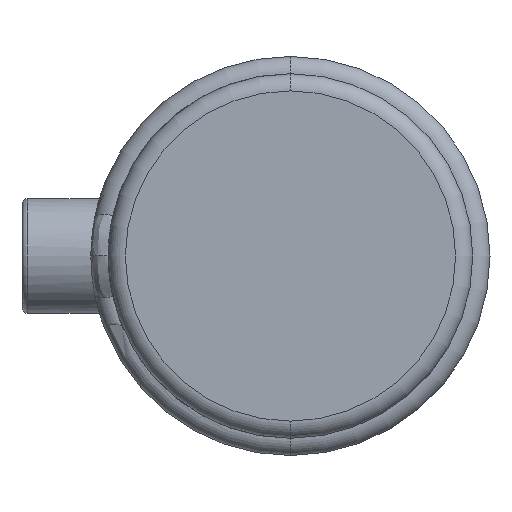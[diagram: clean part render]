
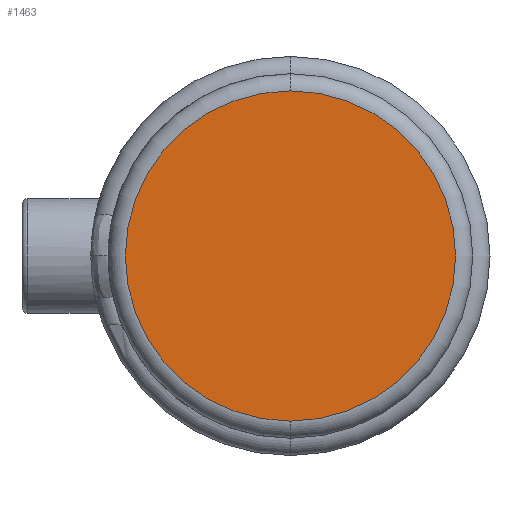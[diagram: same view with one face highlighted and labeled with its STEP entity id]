
A CAD part, left-side view. The second image highlights one B-rep face of the part: STEP entity #1463.
In plain terms, the highlighted planar face has unit normal (-1, 0, 0).
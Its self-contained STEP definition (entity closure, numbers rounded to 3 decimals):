
#186 = AXIS2_PLACEMENT_3D ( 'NONE', #4484, #2246, #4855 ) ;
#276 = AXIS2_PLACEMENT_3D ( 'NONE', #2007, #4639, #2394 ) ;
#498 = PLANE ( 'NONE',  #276 ) ;
#660 = ORIENTED_EDGE ( 'NONE', *, *, #1882, .T. ) ;
#1158 = ORIENTED_EDGE ( 'NONE', *, *, #3808, .T. ) ;
#1203 = VERTEX_POINT ( 'NONE', #2686 ) ;
#1375 = FACE_OUTER_BOUND ( 'NONE', #2290, .T. ) ;
#1404 = CARTESIAN_POINT ( 'NONE',  ( 0., 0., 28.75 ) ) ;
#1463 = ADVANCED_FACE ( 'NONE', ( #1375 ), #498, .T. ) ;
#1882 = EDGE_CURVE ( 'NONE', #1203, #2643, #4319, .T. ) ;
#2007 = CARTESIAN_POINT ( 'NONE',  ( 0., 0., 0. ) ) ;
#2054 = DIRECTION ( 'NONE',  ( -1., 0., 0. ) ) ;
#2246 = DIRECTION ( 'NONE',  ( -1., 0., 0. ) ) ;
#2290 = EDGE_LOOP ( 'NONE', ( #1158, #660 ) ) ;
#2394 = DIRECTION ( 'NONE',  ( 0., 0., 1. ) ) ;
#2643 = VERTEX_POINT ( 'NONE', #1404 ) ;
#2686 = CARTESIAN_POINT ( 'NONE',  ( 0., 0., -28.75 ) ) ;
#3103 = AXIS2_PLACEMENT_3D ( 'NONE', #4304, #2054, #4682 ) ;
#3808 = EDGE_CURVE ( 'NONE', #2643, #1203, #3900, .T. ) ;
#3900 = CIRCLE ( 'NONE', #3103, 28.75 ) ;
#4304 = CARTESIAN_POINT ( 'NONE',  ( 0., 0., 0. ) ) ;
#4319 = CIRCLE ( 'NONE', #186, 28.75 ) ;
#4484 = CARTESIAN_POINT ( 'NONE',  ( 0., 0., 0. ) ) ;
#4639 = DIRECTION ( 'NONE',  ( -1., 0., 0. ) ) ;
#4682 = DIRECTION ( 'NONE',  ( 0., 0., 1. ) ) ;
#4855 = DIRECTION ( 'NONE',  ( 0., 0., 1. ) ) ;
